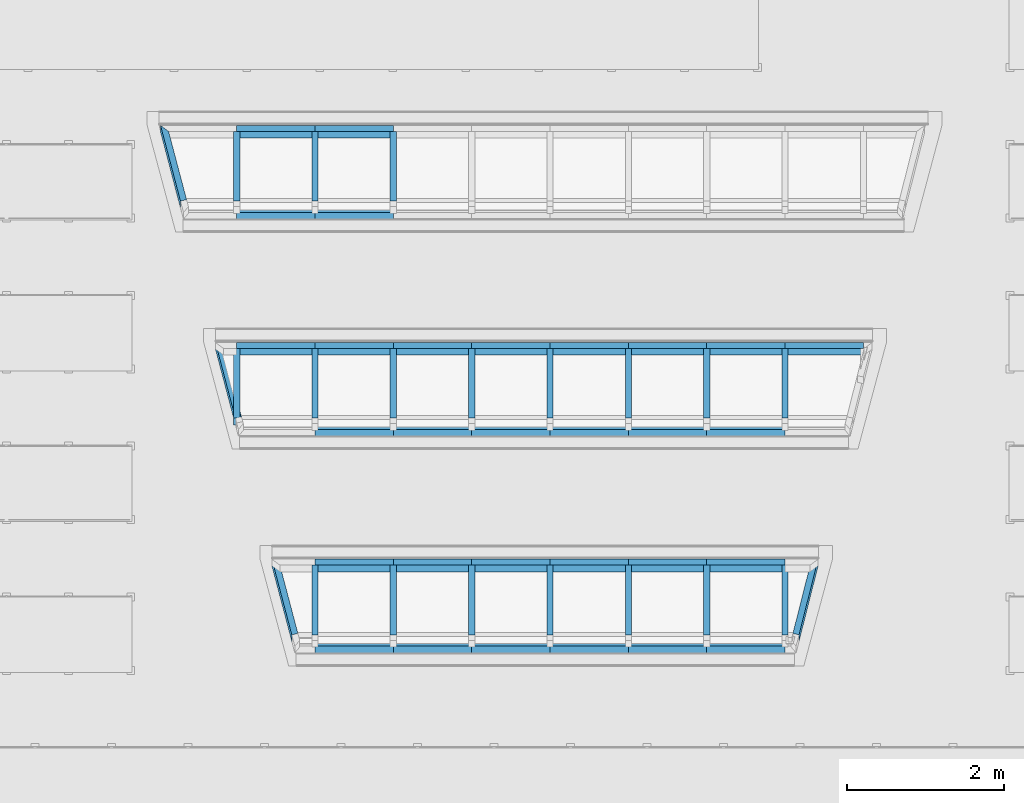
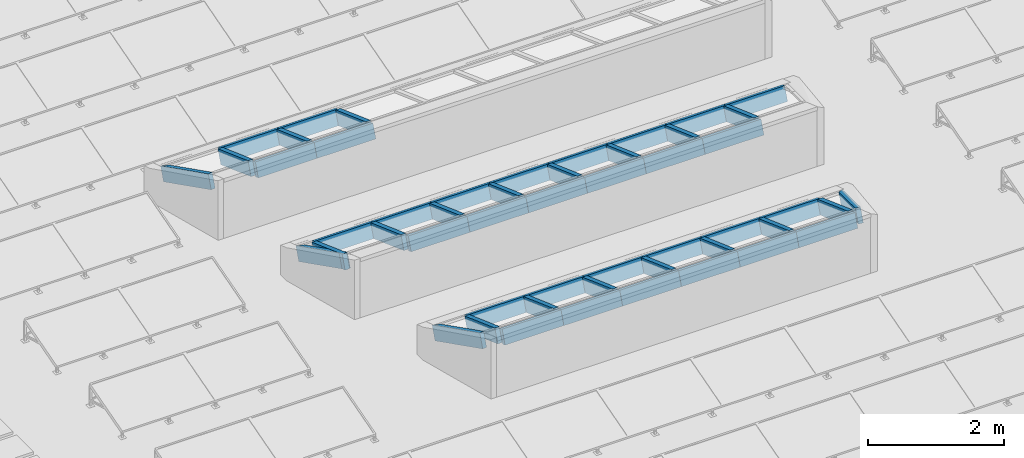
# One storey, part 1 of 20: 52 members, 3 elements without a shape of their own.
"""IFC2X3 building model written with IfcOpenShell, lengths in millimetres."""

from ifc_helpers import new_model, entity, si_unit, converted_unit, derived_unit, money_unit, direction, frame, origin_with_axes, place, context, subcontext, project, spatial, faceted_brep, source, transform, mapped, material, type_object, type_shapes, element, aggregate, save


model = new_model("IFC2X3")

# Units and contexts
model_context = context("Model", 3, precision=0.01, world=origin_with_axes(), true_north=direction((0.0, 1.0)))
plan_context = context("Plan", 3, precision=0.01, world=origin_with_axes(), true_north=direction((0.0, 1.0)))
body_context = subcontext(model_context, "Body", "Model", "MODEL_VIEW")
ifc_project = project(units=[si_unit("LENGTHUNIT", "METRE", prefix="MILLI"), si_unit("AREAUNIT", "SQUARE_METRE"), si_unit("VOLUMEUNIT", "CUBIC_METRE"), converted_unit("PLANEANGLEUNIT", "DEGREE", entity("IfcPlaneAngleMeasure", 0.0174532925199), si_unit("PLANEANGLEUNIT", "RADIAN"), dimensions=[0, 0, 0, 0, 0, 0, 0]), si_unit("SOLIDANGLEUNIT", "STERADIAN"), money_unit("EUR"), converted_unit("TIMEUNIT", "Year", entity("IfcTimeMeasure", 31556926.0), si_unit("TIMEUNIT", "SECOND"), dimensions=[0, 0, 1, 0, 0, 0, 0]), si_unit("MASSUNIT", "GRAM", prefix="KILO"), si_unit("THERMODYNAMICTEMPERATUREUNIT", "DEGREE_CELSIUS"), si_unit("LUMINOUSINTENSITYUNIT", "LUMEN"), si_unit("ENERGYUNIT", "JOULE", prefix="MEGA"), derived_unit("THERMALCONDUCTANCEUNIT", [(si_unit("POWERUNIT", "WATT"), 1), (si_unit("LENGTHUNIT", "METRE"), -1), (si_unit("THERMODYNAMICTEMPERATUREUNIT", "KELVIN"), -1)]), derived_unit("SPECIFICHEATCAPACITYUNIT", [(si_unit("ENERGYUNIT", "JOULE"), 1), (si_unit("MASSUNIT", "GRAM", prefix="KILO"), -1), (si_unit("THERMODYNAMICTEMPERATUREUNIT", "KELVIN"), -1)]), derived_unit("MASSDENSITYUNIT", [(si_unit("MASSUNIT", "GRAM", prefix="KILO"), 1), (si_unit("VOLUMEUNIT", "CUBIC_METRE"), -1)])], contexts=[model_context, plan_context])

# Site, building, storey
site_placement = place(None, origin_with_axes())
site = spatial("IfcSite", under=ifc_project, at=site_placement, Name="Site", CompositionType="ELEMENT")
building_placement = place(site_placement, origin_with_axes())
building = spatial("IfcBuilding", under=site, at=building_placement, Name="Naam gebouw", CompositionType="ELEMENT")
storey_placement = place(building_placement, frame((0.0, 0.0, 7920.0), z_axis=(0.0, 0.0, 1.0), x_axis=(1.0, 0.0, 0.0)))
storey = spatial("IfcBuildingStorey", under=building, at=storey_placement, Name="2e verdieping", CompositionType="ELEMENT", Elevation=7920.0)

# Curtain wall, members
curtain_wall_type = type_object("IfcCurtainWallType", Name="Curtain Wall Type", PredefinedType="NOTDEFINED")
curtain_wall_1_placement = place(storey_placement, frame((13117.0960946, 24464.1241022, 780.165825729), z_axis=(0.0, 0.0, 1.0), x_axis=(1.0, 0.0, 0.0)))
curtain_wall_1 = element("IfcCurtainWall", 1, at=curtain_wall_1_placement, inside=storey, type_object=curtain_wall_type, Name="21_Vliesgevel_Wand-x")
ifc_material = material(Name="Metaal - Staal AFW")
member_type_1 = type_object("IfcMemberType", Name="Boundary Frame 80 x 250", PredefinedType="MULLION")
shared_shape_1 = source(origin_with_axes(), body_context, "Body", "Brep", [
    faceted_brep([(-80.0, -200.0, -1.49766978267e-07), (-80.0, -200.0, 1000.00000025), (-80.0, 50.0, 1000.00000025), (-80.0, 50.0, -1.49766978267e-07), (0.0, -200.0, -1.49766978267e-07), (0.0, -200.0, 1000.00000025), (0.0, 50.0, 1000.00000025), (0.0, 50.0, -1.49766978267e-07)], [[[0, 1, 2, 3]], [[4, 5, 1, 0]], [[1, 5, 6, 2]], [[3, 2, 6, 7]], [[0, 3, 7, 4]], [[7, 6, 5, 4]]]),
])
member_1_placement = place(curtain_wall_1_placement, frame((1422.02873258, -628.292622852, 404.355344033), z_axis=(-1.0, -2.52805207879e-08, 9.20135700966e-09), x_axis=(-2.69029682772e-08, 0.939692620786, -0.342020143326)))
member_1 = element("IfcMember", 2, at=member_1_placement, type_object=member_type_1, material=ifc_material, Name="_Vliesgevel - kader_Kader-x", ObjectType="MULLION", context=body_context, shape_type="MappedRepresentation", body=[
    mapped(shared_shape_1, transform((0.0, 0.0, 0.0), x_axis=(-1.0, 0.0, 3.14704938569e-09), y_axis=(0.0, -1.0, 8.64644730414e-09), z_axis=(3.14704938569e-09, 8.64644730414e-09, 1.0))),
])
member_2_placement = place(curtain_wall_1_placement, frame((2422.02873258, -628.292622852, 404.355344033), z_axis=(-1.0, 0.0, 0.0), x_axis=(0.0, 0.939692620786, -0.342020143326)))
member_2 = element("IfcMember", 3, at=member_2_placement, type_object=member_type_1, material=ifc_material, Name="_Vliesgevel - kader_Kader-x", ObjectType="MULLION", context=body_context, shape_type="MappedRepresentation", body=[
    mapped(shared_shape_1, transform((0.0, 0.0, 0.0), x_axis=(-1.0, 0.0, 0.0), y_axis=(0.0, -1.0, 0.0), z_axis=(0.0, 0.0, 1.0))),
])
member_3_placement = place(curtain_wall_1_placement, frame((1422.02873258, 482.66459094, -1.33306361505e-05), z_axis=(1.0, 0.0, 0.0), x_axis=(0.0, -0.939692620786, 0.342020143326)))
member_3 = element("IfcMember", 4, at=member_3_placement, type_object=member_type_1, material=ifc_material, Name="_Vliesgevel - kader_Kader-x", ObjectType="MULLION", context=body_context, shape_type="MappedRepresentation", body=[
    mapped(shared_shape_1, transform((0.0, 0.0, 0.0), x_axis=(-1.0, 0.0, 0.0), y_axis=(0.0, -1.0, 0.0), z_axis=(0.0, 0.0, 1.0))),
])
member_4_placement = place(curtain_wall_1_placement, frame((422.028732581, 482.66459094, -1.33306361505e-05), z_axis=(1.0, 0.0, 0.0), x_axis=(0.0, -0.939692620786, 0.342020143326)))
member_4 = element("IfcMember", 5, at=member_4_placement, type_object=member_type_1, material=ifc_material, Name="_Vliesgevel - kader_Kader-x", ObjectType="MULLION", context=body_context, shape_type="MappedRepresentation", body=[
    mapped(shared_shape_1, transform((0.0, 0.0, 0.0), x_axis=(-1.0, 0.0, 0.0), y_axis=(0.0, -1.0, 0.0), z_axis=(0.0, 0.0, 1.0))),
])

curtain_wall_2_placement = place(storey_placement, frame((20039.1248272, 21694.0652432, 780.165825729), z_axis=(0.0, 0.0, 1.0), x_axis=(1.0, 0.0, 0.0)))
curtain_wall_2 = element("IfcCurtainWall", 6, at=curtain_wall_2_placement, inside=storey, type_object=curtain_wall_type, Name="21_Vliesgevel_Wand-x")
member_5_placement = place(curtain_wall_2_placement, frame((500.0, 482.664585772, -1.33306361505e-05), z_axis=(1.0, -2.66563304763e-08, 9.70211122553e-09), x_axis=(-2.83670745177e-08, -0.939692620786, 0.342020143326)))
member_5 = element("IfcMember", 7, at=member_5_placement, type_object=member_type_1, material=ifc_material, Name="_Vliesgevel - kader_Kader-x", ObjectType="MULLION", context=body_context, shape_type="MappedRepresentation", body=[
    mapped(shared_shape_1, transform((0.0, 0.0, 0.0), x_axis=(-1.0, 0.0, -3.31831741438e-09), y_axis=(0.0, -1.0, 9.11700234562e-09), z_axis=(-3.31831741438e-09, 9.11700234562e-09, 1.0))),
])
member_6_placement = place(curtain_wall_2_placement, frame((-500.0, 482.664585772, -1.33306361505e-05), z_axis=(1.0, 0.0, 0.0), x_axis=(0.0, -0.939692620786, 0.342020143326)))
member_6 = element("IfcMember", 8, at=member_6_placement, type_object=member_type_1, material=ifc_material, Name="_Vliesgevel - kader_Kader-x", ObjectType="MULLION", context=body_context, shape_type="MappedRepresentation", body=[
    mapped(shared_shape_1, transform((0.0, 0.0, 0.0), x_axis=(-1.0, 0.0, 0.0), y_axis=(0.0, -1.0, 0.0), z_axis=(0.0, 0.0, 1.0))),
])
member_7_placement = place(curtain_wall_2_placement, frame((-1500.0, 482.664585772, -1.33306361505e-05), z_axis=(1.0, 0.0, 0.0), x_axis=(0.0, -0.939692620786, 0.342020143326)))
member_7 = element("IfcMember", 9, at=member_7_placement, type_object=member_type_1, material=ifc_material, Name="_Vliesgevel - kader_Kader-x", ObjectType="MULLION", context=body_context, shape_type="MappedRepresentation", body=[
    mapped(shared_shape_1, transform((0.0, 0.0, 0.0), x_axis=(-1.0, 0.0, 0.0), y_axis=(0.0, -1.0, 0.0), z_axis=(0.0, 0.0, 1.0))),
])
member_8_placement = place(curtain_wall_2_placement, frame((-2500.0, 482.664585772, -1.33306361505e-05), z_axis=(1.0, 0.0, 0.0), x_axis=(0.0, -0.939692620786, 0.342020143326)))
member_8 = element("IfcMember", 10, at=member_8_placement, type_object=member_type_1, material=ifc_material, Name="_Vliesgevel - kader_Kader-x", ObjectType="MULLION", context=body_context, shape_type="MappedRepresentation", body=[
    mapped(shared_shape_1, transform((0.0, 0.0, 0.0), x_axis=(-1.0, 0.0, 0.0), y_axis=(0.0, -1.0, 0.0), z_axis=(0.0, 0.0, 1.0))),
])
member_9_placement = place(curtain_wall_2_placement, frame((-3500.0, 482.664585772, -1.33306361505e-05), z_axis=(1.0, 0.0, 0.0), x_axis=(0.0, -0.939692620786, 0.342020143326)))
member_9 = element("IfcMember", 11, at=member_9_placement, type_object=member_type_1, material=ifc_material, Name="_Vliesgevel - kader_Kader-x", ObjectType="MULLION", context=body_context, shape_type="MappedRepresentation", body=[
    mapped(shared_shape_1, transform((0.0, 0.0, 0.0), x_axis=(-1.0, 0.0, 0.0), y_axis=(0.0, -1.0, 0.0), z_axis=(0.0, 0.0, 1.0))),
])
member_10_placement = place(curtain_wall_2_placement, frame((-4500.0, 482.664585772, -1.33306361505e-05), z_axis=(1.0, 0.0, 0.0), x_axis=(0.0, -0.939692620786, 0.342020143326)))
member_10 = element("IfcMember", 12, at=member_10_placement, type_object=member_type_1, material=ifc_material, Name="_Vliesgevel - kader_Kader-x", ObjectType="MULLION", context=body_context, shape_type="MappedRepresentation", body=[
    mapped(shared_shape_1, transform((0.0, 0.0, 0.0), x_axis=(-1.0, 0.0, 0.0), y_axis=(0.0, -1.0, 0.0), z_axis=(0.0, 0.0, 1.0))),
])
member_11_placement = place(curtain_wall_2_placement, frame((-5500.0, 482.664585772, -1.33306361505e-05), z_axis=(1.0, 0.0, 0.0), x_axis=(0.0, -0.939692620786, 0.342020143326)))
member_11 = element("IfcMember", 13, at=member_11_placement, type_object=member_type_1, material=ifc_material, Name="_Vliesgevel - kader_Kader-x", ObjectType="MULLION", context=body_context, shape_type="MappedRepresentation", body=[
    mapped(shared_shape_1, transform((0.0, 0.0, 0.0), x_axis=(-1.0, 0.0, 0.0), y_axis=(0.0, -1.0, 0.0), z_axis=(0.0, 0.0, 1.0))),
])
member_12_placement = place(curtain_wall_2_placement, frame((-6500.0, 482.664585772, -1.33306361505e-05), z_axis=(1.0, 0.0, 0.0), x_axis=(0.0, -0.939692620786, 0.342020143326)))
member_12 = element("IfcMember", 14, at=member_12_placement, type_object=member_type_1, material=ifc_material, Name="_Vliesgevel - kader_Kader-x", ObjectType="MULLION", context=body_context, shape_type="MappedRepresentation", body=[
    mapped(shared_shape_1, transform((0.0, 0.0, 0.0), x_axis=(-1.0, 0.0, 0.0), y_axis=(0.0, -1.0, 0.0), z_axis=(0.0, 0.0, 1.0))),
])
member_13_placement = place(curtain_wall_2_placement, frame((-4500.0, -628.29262802, 404.355344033), z_axis=(-1.0, 0.0, 0.0), x_axis=(0.0, 0.939692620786, -0.342020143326)))
member_13 = element("IfcMember", 15, at=member_13_placement, type_object=member_type_1, material=ifc_material, Name="_Vliesgevel - kader_Kader-x", ObjectType="MULLION", context=body_context, shape_type="MappedRepresentation", body=[
    mapped(shared_shape_1, transform((0.0, 0.0, 0.0), x_axis=(-1.0, 0.0, 0.0), y_axis=(0.0, -1.0, 0.0), z_axis=(0.0, 0.0, 1.0))),
])
member_14_placement = place(curtain_wall_2_placement, frame((500.0, -628.29262802, 404.355344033), z_axis=(-1.0, 0.0, 0.0), x_axis=(0.0, 0.939692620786, -0.342020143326)))
member_14 = element("IfcMember", 16, at=member_14_placement, type_object=member_type_1, material=ifc_material, Name="_Vliesgevel - kader_Kader-x", ObjectType="MULLION", context=body_context, shape_type="MappedRepresentation", body=[
    mapped(shared_shape_1, transform((0.0, 0.0, 0.0), x_axis=(-1.0, 0.0, 0.0), y_axis=(0.0, -1.0, 0.0), z_axis=(0.0, 0.0, 1.0))),
])
member_15_placement = place(curtain_wall_2_placement, frame((-3500.0, -628.29262802, 404.355344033), z_axis=(-1.0, 0.0, 0.0), x_axis=(0.0, 0.939692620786, -0.342020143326)))
member_15 = element("IfcMember", 17, at=member_15_placement, type_object=member_type_1, material=ifc_material, Name="_Vliesgevel - kader_Kader-x", ObjectType="MULLION", context=body_context, shape_type="MappedRepresentation", body=[
    mapped(shared_shape_1, transform((0.0, 0.0, 0.0), x_axis=(-1.0, 0.0, 0.0), y_axis=(0.0, -1.0, 0.0), z_axis=(0.0, 0.0, 1.0))),
])
member_16_placement = place(curtain_wall_2_placement, frame((-500.0, -628.29262802, 404.355344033), z_axis=(-1.0, 0.0, 0.0), x_axis=(0.0, 0.939692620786, -0.342020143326)))
member_16 = element("IfcMember", 18, at=member_16_placement, type_object=member_type_1, material=ifc_material, Name="_Vliesgevel - kader_Kader-x", ObjectType="MULLION", context=body_context, shape_type="MappedRepresentation", body=[
    mapped(shared_shape_1, transform((0.0, 0.0, 0.0), x_axis=(-1.0, 0.0, 0.0), y_axis=(0.0, -1.0, 0.0), z_axis=(0.0, 0.0, 1.0))),
])
member_17_placement = place(curtain_wall_2_placement, frame((-1500.0, -628.29262802, 404.355344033), z_axis=(-1.0, 0.0, 0.0), x_axis=(0.0, 0.939692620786, -0.342020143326)))
member_17 = element("IfcMember", 19, at=member_17_placement, type_object=member_type_1, material=ifc_material, Name="_Vliesgevel - kader_Kader-x", ObjectType="MULLION", context=body_context, shape_type="MappedRepresentation", body=[
    mapped(shared_shape_1, transform((0.0, 0.0, 0.0), x_axis=(-1.0, 0.0, 0.0), y_axis=(0.0, -1.0, 0.0), z_axis=(0.0, 0.0, 1.0))),
])
member_18_placement = place(curtain_wall_2_placement, frame((-2500.0, -628.29262802, 404.355344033), z_axis=(-1.0, 0.0, 0.0), x_axis=(0.0, 0.939692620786, -0.342020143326)))
member_18 = element("IfcMember", 20, at=member_18_placement, type_object=member_type_1, material=ifc_material, Name="_Vliesgevel - kader_Kader-x", ObjectType="MULLION", context=body_context, shape_type="MappedRepresentation", body=[
    mapped(shared_shape_1, transform((0.0, 0.0, 0.0), x_axis=(-1.0, 0.0, 0.0), y_axis=(0.0, -1.0, 0.0), z_axis=(0.0, 0.0, 1.0))),
])

curtain_wall_3_placement = place(storey_placement, frame((20039.1248272, 18928.1634329, 780.165825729), z_axis=(0.0, 0.0, 1.0), x_axis=(1.0, 0.0, 0.0)))
curtain_wall_3 = element("IfcCurtainWall", 21, at=curtain_wall_3_placement, inside=storey, type_object=curtain_wall_type, Name="21_Vliesgevel_Wand-x")
member_19_placement = place(curtain_wall_3_placement, frame((-500.0, 482.664585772, -1.33306361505e-05), z_axis=(1.0, 0.0, 0.0), x_axis=(0.0, -0.939692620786, 0.342020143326)))
member_19 = element("IfcMember", 22, at=member_19_placement, type_object=member_type_1, material=ifc_material, Name="_Vliesgevel - kader_Kader-x", ObjectType="MULLION", context=body_context, shape_type="MappedRepresentation", body=[
    mapped(shared_shape_1, transform((0.0, 0.0, 0.0), x_axis=(-1.0, 0.0, 0.0), y_axis=(0.0, -1.0, 0.0), z_axis=(0.0, 0.0, 1.0))),
])
member_20_placement = place(curtain_wall_3_placement, frame((-1500.0, 482.664585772, -1.33306361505e-05), z_axis=(1.0, 0.0, 0.0), x_axis=(0.0, -0.939692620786, 0.342020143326)))
member_20 = element("IfcMember", 23, at=member_20_placement, type_object=member_type_1, material=ifc_material, Name="_Vliesgevel - kader_Kader-x", ObjectType="MULLION", context=body_context, shape_type="MappedRepresentation", body=[
    mapped(shared_shape_1, transform((0.0, 0.0, 0.0), x_axis=(-1.0, 0.0, 0.0), y_axis=(0.0, -1.0, 0.0), z_axis=(0.0, 0.0, 1.0))),
])
member_21_placement = place(curtain_wall_3_placement, frame((-2500.0, 482.664585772, -1.33306361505e-05), z_axis=(1.0, 0.0, 0.0), x_axis=(0.0, -0.939692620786, 0.342020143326)))
member_21 = element("IfcMember", 24, at=member_21_placement, type_object=member_type_1, material=ifc_material, Name="_Vliesgevel - kader_Kader-x", ObjectType="MULLION", context=body_context, shape_type="MappedRepresentation", body=[
    mapped(shared_shape_1, transform((0.0, 0.0, 0.0), x_axis=(-1.0, 0.0, 0.0), y_axis=(0.0, -1.0, 0.0), z_axis=(0.0, 0.0, 1.0))),
])
member_22_placement = place(curtain_wall_3_placement, frame((-3500.0, 482.664585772, -1.33306361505e-05), z_axis=(1.0, 0.0, 0.0), x_axis=(0.0, -0.939692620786, 0.342020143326)))
member_22 = element("IfcMember", 25, at=member_22_placement, type_object=member_type_1, material=ifc_material, Name="_Vliesgevel - kader_Kader-x", ObjectType="MULLION", context=body_context, shape_type="MappedRepresentation", body=[
    mapped(shared_shape_1, transform((0.0, 0.0, 0.0), x_axis=(-1.0, 0.0, 0.0), y_axis=(0.0, -1.0, 0.0), z_axis=(0.0, 0.0, 1.0))),
])
member_23_placement = place(curtain_wall_3_placement, frame((-4500.0, 482.664585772, -1.33306361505e-05), z_axis=(1.0, 0.0, 0.0), x_axis=(0.0, -0.939692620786, 0.342020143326)))
member_23 = element("IfcMember", 26, at=member_23_placement, type_object=member_type_1, material=ifc_material, Name="_Vliesgevel - kader_Kader-x", ObjectType="MULLION", context=body_context, shape_type="MappedRepresentation", body=[
    mapped(shared_shape_1, transform((0.0, 0.0, 0.0), x_axis=(-1.0, 0.0, 0.0), y_axis=(0.0, -1.0, 0.0), z_axis=(0.0, 0.0, 1.0))),
])
member_24_placement = place(curtain_wall_3_placement, frame((-5500.0, 482.664585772, -1.33306361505e-05), z_axis=(1.0, 0.0, 0.0), x_axis=(0.0, -0.939692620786, 0.342020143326)))
member_24 = element("IfcMember", 27, at=member_24_placement, type_object=member_type_1, material=ifc_material, Name="_Vliesgevel - kader_Kader-x", ObjectType="MULLION", context=body_context, shape_type="MappedRepresentation", body=[
    mapped(shared_shape_1, transform((0.0, 0.0, 0.0), x_axis=(-1.0, 0.0, 0.0), y_axis=(0.0, -1.0, 0.0), z_axis=(0.0, 0.0, 1.0))),
])
member_25_placement = place(curtain_wall_3_placement, frame((-4500.0, -628.29262802, 404.355344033), z_axis=(-1.0, 0.0, 0.0), x_axis=(0.0, 0.939692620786, -0.342020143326)))
member_25 = element("IfcMember", 28, at=member_25_placement, type_object=member_type_1, material=ifc_material, Name="_Vliesgevel - kader_Kader-x", ObjectType="MULLION", context=body_context, shape_type="MappedRepresentation", body=[
    mapped(shared_shape_1, transform((0.0, 0.0, 0.0), x_axis=(-1.0, 0.0, 0.0), y_axis=(0.0, -1.0, 0.0), z_axis=(0.0, 0.0, 1.0))),
])
member_26_placement = place(curtain_wall_3_placement, frame((500.0, -628.29262802, 404.355344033), z_axis=(-1.0, 0.0, 0.0), x_axis=(0.0, 0.939692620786, -0.342020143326)))
member_26 = element("IfcMember", 29, at=member_26_placement, type_object=member_type_1, material=ifc_material, Name="_Vliesgevel - kader_Kader-x", ObjectType="MULLION", context=body_context, shape_type="MappedRepresentation", body=[
    mapped(shared_shape_1, transform((0.0, 0.0, 0.0), x_axis=(-1.0, 0.0, 0.0), y_axis=(0.0, -1.0, 0.0), z_axis=(0.0, 0.0, 1.0))),
])
member_27_placement = place(curtain_wall_3_placement, frame((-3500.0, -628.29262802, 404.355344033), z_axis=(-1.0, 0.0, 0.0), x_axis=(0.0, 0.939692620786, -0.342020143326)))
member_27 = element("IfcMember", 30, at=member_27_placement, type_object=member_type_1, material=ifc_material, Name="_Vliesgevel - kader_Kader-x", ObjectType="MULLION", context=body_context, shape_type="MappedRepresentation", body=[
    mapped(shared_shape_1, transform((0.0, 0.0, 0.0), x_axis=(-1.0, 0.0, 0.0), y_axis=(0.0, -1.0, 0.0), z_axis=(0.0, 0.0, 1.0))),
])
member_28_placement = place(curtain_wall_3_placement, frame((-500.0, -628.29262802, 404.355344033), z_axis=(-1.0, 0.0, 0.0), x_axis=(0.0, 0.939692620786, -0.342020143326)))
member_28 = element("IfcMember", 31, at=member_28_placement, type_object=member_type_1, material=ifc_material, Name="_Vliesgevel - kader_Kader-x", ObjectType="MULLION", context=body_context, shape_type="MappedRepresentation", body=[
    mapped(shared_shape_1, transform((0.0, 0.0, 0.0), x_axis=(-1.0, 0.0, 0.0), y_axis=(0.0, -1.0, 0.0), z_axis=(0.0, 0.0, 1.0))),
])
member_29_placement = place(curtain_wall_3_placement, frame((-1500.0, -628.29262802, 404.355344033), z_axis=(-1.0, 0.0, 0.0), x_axis=(0.0, 0.939692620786, -0.342020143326)))
member_29 = element("IfcMember", 32, at=member_29_placement, type_object=member_type_1, material=ifc_material, Name="_Vliesgevel - kader_Kader-x", ObjectType="MULLION", context=body_context, shape_type="MappedRepresentation", body=[
    mapped(shared_shape_1, transform((0.0, 0.0, 0.0), x_axis=(-1.0, 0.0, 0.0), y_axis=(0.0, -1.0, 0.0), z_axis=(0.0, 0.0, 1.0))),
])
member_30_placement = place(curtain_wall_3_placement, frame((-2500.0, -628.29262802, 404.355344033), z_axis=(-1.0, 0.0, 0.0), x_axis=(0.0, 0.939692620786, -0.342020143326)))
member_30 = element("IfcMember", 33, at=member_30_placement, type_object=member_type_1, material=ifc_material, Name="_Vliesgevel - kader_Kader-x", ObjectType="MULLION", context=body_context, shape_type="MappedRepresentation", body=[
    mapped(shared_shape_1, transform((0.0, 0.0, 0.0), x_axis=(-1.0, 0.0, 0.0), y_axis=(0.0, -1.0, 0.0), z_axis=(0.0, 0.0, 1.0))),
])

# Member
member_type_2 = type_object("IfcMemberType", Name="Mullion Frame 80 x 250", PredefinedType="MULLION")
shared_shape_2 = source(origin_with_axes(), body_context, "Body", "Brep", [
    faceted_brep([(-40.0, 50.0, 80.0), (-40.0, -200.0, 80.0), (-40.0, -200.0, 1027.28184748), (-40.0, 50.0, 1027.28184748), (40.0, 50.0, 80.0), (40.0, -200.0, 80.0), (40.0, -200.0, 1027.28184748), (40.0, 50.0, 1027.28184748)], [[[0, 1, 2, 3]], [[1, 0, 4, 5]], [[1, 5, 6, 2]], [[2, 6, 7, 3]], [[4, 0, 3, 7]], [[5, 4, 7, 6]]]),
])
type_shapes(member_type_2, [shared_shape_2])
member_31_placement = place(curtain_wall_1_placement, frame((422.028732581, 482.66459094, -1.33306361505e-05), z_axis=(0.0, -0.939692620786, 0.342020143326), x_axis=(-1.0, 0.0, 0.0)))
member_31 = element("IfcMember", 34, at=member_31_placement, type_object=member_type_2, material=ifc_material, Name="_Vliesgevel - kader_Kader-x", ObjectType="MULLION", context=body_context, shape_type="MappedRepresentation", body=[
    mapped(shared_shape_2, transform((0.0, 0.0, 0.0), x_axis=(-1.0, 0.0, 0.0), y_axis=(0.0, -1.0, 0.0), z_axis=(0.0, 0.0, 1.0))),
])

member_32_placement = place(curtain_wall_1_placement, frame((1422.02873258, 482.66459094, -1.33306361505e-05), z_axis=(0.0, -0.939692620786, 0.342020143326), x_axis=(-1.0, 0.0, 0.0)))
member_32 = element("IfcMember", 35, at=member_32_placement, type_object=member_type_2, material=ifc_material, Name="_Vliesgevel - kader_Kader-x", ObjectType="MULLION", context=body_context, shape_type="MappedRepresentation", body=[
    mapped(shared_shape_2, transform((0.0, 0.0, 0.0), x_axis=(-1.0, 0.0, 0.0), y_axis=(0.0, -1.0, 0.0), z_axis=(0.0, 0.0, 1.0))),
])

member_33_placement = place(curtain_wall_1_placement, frame((2422.02873258, 482.66459094, -1.33306361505e-05), z_axis=(0.0, -0.939692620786, 0.342020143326), x_axis=(-1.0, 0.0, 0.0)))
member_33 = element("IfcMember", 36, at=member_33_placement, type_object=member_type_2, material=ifc_material, Name="_Vliesgevel - kader_Kader-x", ObjectType="MULLION", context=body_context, shape_type="MappedRepresentation", body=[
    mapped(shared_shape_2, transform((0.0, 0.0, 0.0), x_axis=(-1.0, 0.0, 0.0), y_axis=(0.0, -1.0, 0.0), z_axis=(0.0, 0.0, 1.0))),
])

member_34_placement = place(curtain_wall_2_placement, frame((-500.0, 482.664585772, -1.33306361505e-05), z_axis=(0.0, -0.939692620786, 0.342020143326), x_axis=(-1.0, 0.0, 0.0)))
member_34 = element("IfcMember", 37, at=member_34_placement, type_object=member_type_2, material=ifc_material, Name="_Vliesgevel - kader_Kader-x", ObjectType="MULLION", context=body_context, shape_type="MappedRepresentation", body=[
    mapped(shared_shape_2, transform((0.0, 0.0, 0.0), x_axis=(-1.0, 0.0, 0.0), y_axis=(0.0, -1.0, 0.0), z_axis=(0.0, 0.0, 1.0))),
])

member_35_placement = place(curtain_wall_2_placement, frame((-6500.0, 482.664585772, -1.33306361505e-05), z_axis=(0.0, -0.939692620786, 0.342020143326), x_axis=(-1.0, 0.0, 0.0)))
member_35 = element("IfcMember", 38, at=member_35_placement, type_object=member_type_2, material=ifc_material, Name="_Vliesgevel - kader_Kader-x", ObjectType="MULLION", context=body_context, shape_type="MappedRepresentation", body=[
    mapped(shared_shape_2, transform((0.0, 0.0, 0.0), x_axis=(-1.0, 0.0, 0.0), y_axis=(0.0, -1.0, 0.0), z_axis=(0.0, 0.0, 1.0))),
])

member_36_placement = place(curtain_wall_2_placement, frame((500.0, 482.664585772, -1.33306361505e-05), z_axis=(0.0, -0.939692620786, 0.342020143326), x_axis=(-1.0, 0.0, 0.0)))
member_36 = element("IfcMember", 39, at=member_36_placement, type_object=member_type_2, material=ifc_material, Name="_Vliesgevel - kader_Kader-x", ObjectType="MULLION", context=body_context, shape_type="MappedRepresentation", body=[
    mapped(shared_shape_2, transform((0.0, 0.0, 0.0), x_axis=(-1.0, 0.0, 0.0), y_axis=(0.0, -1.0, 0.0), z_axis=(0.0, 0.0, 1.0))),
])

member_37_placement = place(curtain_wall_2_placement, frame((-5500.0, 482.664585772, -1.33306361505e-05), z_axis=(0.0, -0.939692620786, 0.342020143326), x_axis=(-1.0, 0.0, 0.0)))
member_37 = element("IfcMember", 40, at=member_37_placement, type_object=member_type_2, material=ifc_material, Name="_Vliesgevel - kader_Kader-x", ObjectType="MULLION", context=body_context, shape_type="MappedRepresentation", body=[
    mapped(shared_shape_2, transform((0.0, 0.0, 0.0), x_axis=(-1.0, 0.0, 0.0), y_axis=(0.0, -1.0, 0.0), z_axis=(0.0, 0.0, 1.0))),
])

member_38_placement = place(curtain_wall_2_placement, frame((-2500.0, 482.664585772, -1.33306361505e-05), z_axis=(0.0, -0.939692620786, 0.342020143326), x_axis=(-1.0, 0.0, 0.0)))
member_38 = element("IfcMember", 41, at=member_38_placement, type_object=member_type_2, material=ifc_material, Name="_Vliesgevel - kader_Kader-x", ObjectType="MULLION", context=body_context, shape_type="MappedRepresentation", body=[
    mapped(shared_shape_2, transform((0.0, 0.0, 0.0), x_axis=(-1.0, 0.0, 0.0), y_axis=(0.0, -1.0, 0.0), z_axis=(0.0, 0.0, 1.0))),
])

member_39_placement = place(curtain_wall_2_placement, frame((-4500.0, 482.664585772, -1.33306361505e-05), z_axis=(0.0, -0.939692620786, 0.342020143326), x_axis=(-1.0, 0.0, 0.0)))
member_39 = element("IfcMember", 42, at=member_39_placement, type_object=member_type_2, material=ifc_material, Name="_Vliesgevel - kader_Kader-x", ObjectType="MULLION", context=body_context, shape_type="MappedRepresentation", body=[
    mapped(shared_shape_2, transform((0.0, 0.0, 0.0), x_axis=(-1.0, 0.0, 0.0), y_axis=(0.0, -1.0, 0.0), z_axis=(0.0, 0.0, 1.0))),
])

member_40_placement = place(curtain_wall_2_placement, frame((-3500.0, 482.664585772, -1.33306361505e-05), z_axis=(0.0, -0.939692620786, 0.342020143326), x_axis=(-1.0, 0.0, 0.0)))
member_40 = element("IfcMember", 43, at=member_40_placement, type_object=member_type_2, material=ifc_material, Name="_Vliesgevel - kader_Kader-x", ObjectType="MULLION", context=body_context, shape_type="MappedRepresentation", body=[
    mapped(shared_shape_2, transform((0.0, 0.0, 0.0), x_axis=(-1.0, 0.0, 0.0), y_axis=(0.0, -1.0, 0.0), z_axis=(0.0, 0.0, 1.0))),
])

member_41_placement = place(curtain_wall_2_placement, frame((-1500.0, 482.664585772, -1.33306361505e-05), z_axis=(0.0, -0.939692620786, 0.342020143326), x_axis=(-1.0, 0.0, 0.0)))
member_41 = element("IfcMember", 44, at=member_41_placement, type_object=member_type_2, material=ifc_material, Name="_Vliesgevel - kader_Kader-x", ObjectType="MULLION", context=body_context, shape_type="MappedRepresentation", body=[
    mapped(shared_shape_2, transform((0.0, 0.0, 0.0), x_axis=(-1.0, 0.0, 0.0), y_axis=(0.0, -1.0, 0.0), z_axis=(0.0, 0.0, 1.0))),
])

member_42_placement = place(curtain_wall_3_placement, frame((-500.0, 482.664585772, -1.33306361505e-05), z_axis=(0.0, -0.939692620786, 0.342020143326), x_axis=(-1.0, 0.0, 0.0)))
member_42 = element("IfcMember", 45, at=member_42_placement, type_object=member_type_2, material=ifc_material, Name="_Vliesgevel - kader_Kader-x", ObjectType="MULLION", context=body_context, shape_type="MappedRepresentation", body=[
    mapped(shared_shape_2, transform((0.0, 0.0, 0.0), x_axis=(-1.0, 0.0, 0.0), y_axis=(0.0, -1.0, 0.0), z_axis=(0.0, 0.0, 1.0))),
])

member_43_placement = place(curtain_wall_3_placement, frame((500.0, 482.664585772, -1.33306361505e-05), z_axis=(0.0, -0.939692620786, 0.342020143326), x_axis=(-1.0, 0.0, 0.0)))
member_43 = element("IfcMember", 46, at=member_43_placement, type_object=member_type_2, material=ifc_material, Name="_Vliesgevel - kader_Kader-x", ObjectType="MULLION", context=body_context, shape_type="MappedRepresentation", body=[
    mapped(shared_shape_2, transform((0.0, 0.0, 0.0), x_axis=(-1.0, 0.0, 0.0), y_axis=(0.0, -1.0, 0.0), z_axis=(0.0, 0.0, 1.0))),
])

member_44_placement = place(curtain_wall_3_placement, frame((-5500.0, 482.664585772, -1.33306361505e-05), z_axis=(0.0, -0.939692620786, 0.342020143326), x_axis=(-1.0, 0.0, 0.0)))
member_44 = element("IfcMember", 47, at=member_44_placement, type_object=member_type_2, material=ifc_material, Name="_Vliesgevel - kader_Kader-x", ObjectType="MULLION", context=body_context, shape_type="MappedRepresentation", body=[
    mapped(shared_shape_2, transform((0.0, 0.0, 0.0), x_axis=(-1.0, 0.0, 0.0), y_axis=(0.0, -1.0, 0.0), z_axis=(0.0, 0.0, 1.0))),
])

member_45_placement = place(curtain_wall_3_placement, frame((-2500.0, 482.664585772, -1.33306361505e-05), z_axis=(0.0, -0.939692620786, 0.342020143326), x_axis=(-1.0, 0.0, 0.0)))
member_45 = element("IfcMember", 48, at=member_45_placement, type_object=member_type_2, material=ifc_material, Name="_Vliesgevel - kader_Kader-x", ObjectType="MULLION", context=body_context, shape_type="MappedRepresentation", body=[
    mapped(shared_shape_2, transform((0.0, 0.0, 0.0), x_axis=(-1.0, 0.0, 0.0), y_axis=(0.0, -1.0, 0.0), z_axis=(0.0, 0.0, 1.0))),
])

member_46_placement = place(curtain_wall_3_placement, frame((-4500.0, 482.664585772, -1.33306361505e-05), z_axis=(0.0, -0.939692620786, 0.342020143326), x_axis=(-1.0, 0.0, 0.0)))
member_46 = element("IfcMember", 49, at=member_46_placement, type_object=member_type_2, material=ifc_material, Name="_Vliesgevel - kader_Kader-x", ObjectType="MULLION", context=body_context, shape_type="MappedRepresentation", body=[
    mapped(shared_shape_2, transform((0.0, 0.0, 0.0), x_axis=(-1.0, 0.0, 0.0), y_axis=(0.0, -1.0, 0.0), z_axis=(0.0, 0.0, 1.0))),
])

member_47_placement = place(curtain_wall_3_placement, frame((-3500.0, 482.664585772, -1.33306361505e-05), z_axis=(0.0, -0.939692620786, 0.342020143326), x_axis=(-1.0, 0.0, 0.0)))
member_47 = element("IfcMember", 50, at=member_47_placement, type_object=member_type_2, material=ifc_material, Name="_Vliesgevel - kader_Kader-x", ObjectType="MULLION", context=body_context, shape_type="MappedRepresentation", body=[
    mapped(shared_shape_2, transform((0.0, 0.0, 0.0), x_axis=(-1.0, 0.0, 0.0), y_axis=(0.0, -1.0, 0.0), z_axis=(0.0, 0.0, 1.0))),
])

member_48_placement = place(curtain_wall_3_placement, frame((-1500.0, 482.664585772, -1.33306361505e-05), z_axis=(0.0, -0.939692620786, 0.342020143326), x_axis=(-1.0, 0.0, 0.0)))
member_48 = element("IfcMember", 51, at=member_48_placement, type_object=member_type_2, material=ifc_material, Name="_Vliesgevel - kader_Kader-x", ObjectType="MULLION", context=body_context, shape_type="MappedRepresentation", body=[
    mapped(shared_shape_2, transform((0.0, 0.0, 0.0), x_axis=(-1.0, 0.0, 0.0), y_axis=(0.0, -1.0, 0.0), z_axis=(0.0, 0.0, 1.0))),
])

shared_shape_3 = source(origin_with_axes(), body_context, "Body", "Brep", [
    faceted_brep([(-80.0, 50.0, 101.250572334), (-80.0, -200.0, 101.250572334), (-80.0, -200.0, 1055.91791012), (-80.0, 50.0, 1055.91791012), (0.0, 50.0, 0.0), (0.0, -200.0, 0.0), (0.0, -200.0, 1055.91791012), (0.0, 50.0, 1055.91791012)], [[[0, 1, 2, 3]], [[1, 0, 4, 5]], [[1, 5, 6, 2]], [[2, 6, 7, 3]], [[4, 0, 3, 7]], [[5, 4, 7, 6]]]),
])
member_49_placement = place(curtain_wall_3_placement, frame((921.941965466, 482.664574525, -9.23690812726e-06), z_axis=(-0.231308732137, -0.914208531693, 0.332744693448), x_axis=(-0.972880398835, 0.217359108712, -0.0791122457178)))
member_49 = element("IfcMember", 52, at=member_49_placement, type_object=member_type_1, material=ifc_material, Name="_Vliesgevel - kader_Kader-x", ObjectType="MULLION", context=body_context, shape_type="MappedRepresentation", body=[
    mapped(shared_shape_3, transform((0.0, 0.0, 0.0), x_axis=(-1.0, 0.0, 0.0), y_axis=(0.0, -1.0, 0.0), z_axis=(0.0, 0.0, 1.0))),
])

shared_shape_4 = source(origin_with_axes(), body_context, "Body", "Brep", [
    faceted_brep([(-80.0, -200.0, -1.33176691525e-05), (-80.0, -200.0, 956.089329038), (-80.0, 50.0, 956.089329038), (-80.0, 50.0, -1.33176691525e-05), (0.0, -200.0, -1.33176691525e-05), (0.0, -200.0, 1058.32012171), (0.0, 50.0, 1058.32012171), (0.0, 50.0, -1.33176691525e-05)], [[[0, 1, 2, 3]], [[4, 5, 1, 0]], [[1, 5, 6, 2]], [[3, 2, 6, 7]], [[0, 3, 7, 4]], [[7, 6, 5, 4]]]),
])
type_shapes(member_type_1, [shared_shape_1, shared_shape_3, shared_shape_4])
member_50_placement = place(curtain_wall_1_placement, frame((-294.814807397, -482.664580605, 351.351071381), z_axis=(-0.240407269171, 0.912133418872, -0.331989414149), x_axis=(0.970672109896, 0.225908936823, -0.0822241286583)))
member_50 = element("IfcMember", 53, at=member_50_placement, type_object=member_type_1, material=ifc_material, Name="_Vliesgevel - kader_Kader-x", ObjectType="MULLION", context=body_context, shape_type="MappedRepresentation", body=[
    mapped(shared_shape_4, transform((0.0, 0.0, 0.0), x_axis=(-1.0, 0.0, 0.0), y_axis=(0.0, -1.0, 0.0), z_axis=(0.0, 0.0, 1.0))),
])

aggregate(curtain_wall_1, [member_31, member_32, member_33, member_1, member_2, member_3, member_4, member_50])

member_51_placement = place(curtain_wall_2_placement, frame((-6516.35228719, -482.664585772, 351.351071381), z_axis=(-0.240407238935, 0.912133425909, -0.33198941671), x_axis=(0.970672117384, 0.225908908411, -0.0822241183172)))
member_51 = element("IfcMember", 54, at=member_51_placement, type_object=member_type_1, material=ifc_material, Name="_Vliesgevel - kader_Kader-x", ObjectType="MULLION", context=body_context, shape_type="MappedRepresentation", body=[
    mapped(shared_shape_4, transform((0.0, 0.0, 0.0), x_axis=(-1.0, 0.0, 0.0), y_axis=(0.0, -1.0, 0.0), z_axis=(0.0, 0.0, 1.0))),
])

aggregate(curtain_wall_2, [member_5, member_6, member_7, member_34, member_8, member_35, member_36, member_37, member_38, member_39, member_40, member_9, member_10, member_11, member_12, member_41, member_13, member_14, member_15, member_16, member_17, member_18, member_51])

member_52_placement = place(curtain_wall_3_placement, frame((-5796.13013469, -482.664585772, 351.351071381), z_axis=(-0.240407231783, 0.912133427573, -0.331989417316), x_axis=(0.970672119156, 0.22590890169, -0.082224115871)))
member_52 = element("IfcMember", 55, at=member_52_placement, type_object=member_type_1, material=ifc_material, Name="_Vliesgevel - kader_Kader-x", ObjectType="MULLION", context=body_context, shape_type="MappedRepresentation", body=[
    mapped(shared_shape_4, transform((0.0, 0.0, 0.0), x_axis=(-1.0, 0.0, 0.0), y_axis=(0.0, -1.0, 0.0), z_axis=(0.0, 0.0, 1.0))),
])

aggregate(curtain_wall_3, [member_19, member_20, member_42, member_21, member_43, member_44, member_45, member_46, member_47, member_22, member_23, member_24, member_48, member_25, member_26, member_27, member_28, member_29, member_30, member_52, member_49])

save(model, "model.ifc")
